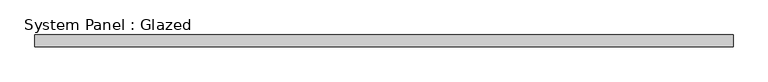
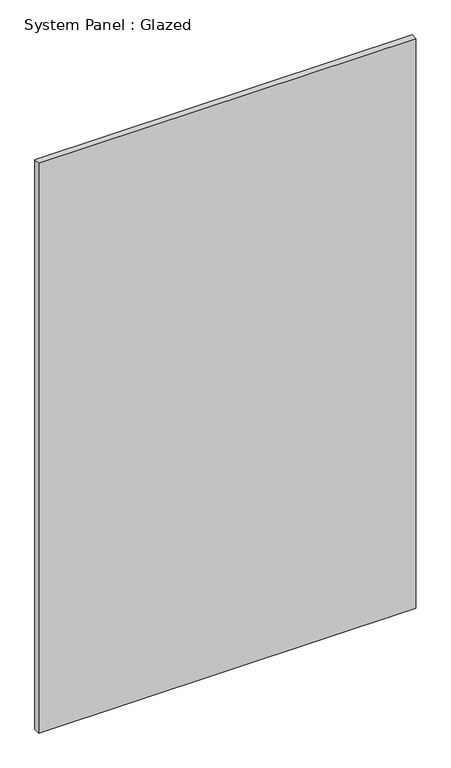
"""IFC4 building model written with IfcOpenShell, lengths in millimetres: plate geometry, System Panel : Glazed."""

from ifc_helpers import new_model, si_unit, origin, origin_with_axes, place, context, project, spatial, polyline, outline, extrude, source, transform, mapped, element, save


def system_panel_glazed_c540db15(model_context):
    return source(origin(), model_context, "Body", "SweptSolid", [
        extrude(outline(polyline([(735.8695652, 24.5), (-735.8695652, 24.5), (-735.8695652, 49.5), (735.8695652, 49.5), (735.8695652, 24.5)])), origin_with_axes(), (0.0, 0.0, 1.0), 2350.0),
    ])


if __name__ == "__main__":
    model = new_model("IFC4")
    model_context = context("Model", 3, world=origin())
    ifc_project = project(units=[si_unit("LENGTHUNIT", "METRE", prefix="MILLI")], contexts=[model_context])
    site = spatial("IfcSite", under=ifc_project)
    building = spatial("IfcBuilding", under=site)
    placement = place(None, origin())
    system_panel_glazed_shape = system_panel_glazed_c540db15(model_context)
    element("IfcPlate", 1, ObjectType="System Panel : Glazed", at=placement, inside=building, context=model_context, shape_type="MappedRepresentation", body=[
        mapped(system_panel_glazed_shape, transform((0.0, 0.0, 0.0), x_axis=(1.0, 0.0, 0.0), y_axis=(0.0, 1.0, 0.0), z_axis=(0.0, 0.0, 1.0))),
    ])
    save(model, "model.ifc")
